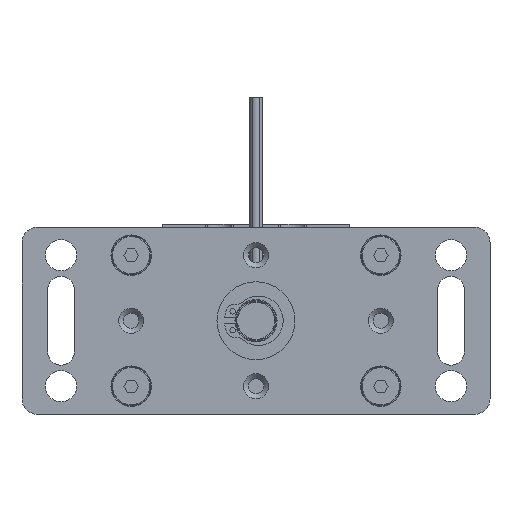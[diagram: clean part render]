
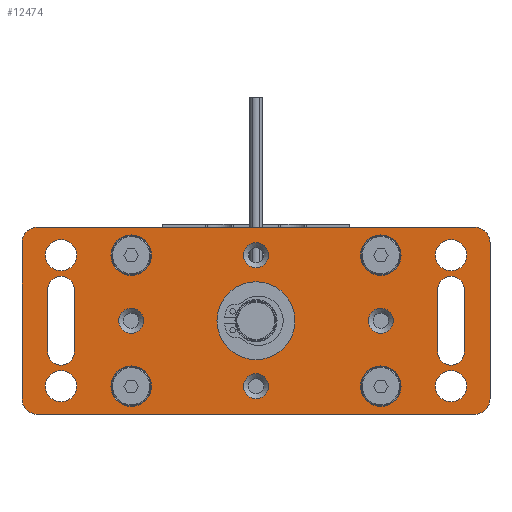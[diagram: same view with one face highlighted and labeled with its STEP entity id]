
A CAD part, front view. The second image highlights one B-rep face of the part: STEP entity #12474.
In plain terms, the highlighted planar face has unit normal (0, -1, 0).
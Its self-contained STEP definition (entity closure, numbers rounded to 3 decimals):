
#817=LINE('',#18185,#1482);
#818=LINE('',#18189,#1483);
#819=LINE('',#18196,#1484);
#820=LINE('',#18201,#1485);
#821=LINE('',#18205,#1486);
#822=LINE('',#18209,#1487);
#823=LINE('',#18232,#1488);
#824=LINE('',#18237,#1489);
#1482=VECTOR('',#14833,1000.);
#1483=VECTOR('',#14836,1000.);
#1484=VECTOR('',#14843,1000.);
#1485=VECTOR('',#14846,1000.);
#1486=VECTOR('',#14849,1000.);
#1487=VECTOR('',#14852,1000.);
#1488=VECTOR('',#14875,1000.);
#1489=VECTOR('',#14878,1000.);
#2627=ORIENTED_EDGE('',*,*,#5616,.F.);
#2628=ORIENTED_EDGE('',*,*,#5617,.F.);
#2629=ORIENTED_EDGE('',*,*,#5618,.F.);
#2630=ORIENTED_EDGE('',*,*,#5619,.F.);
#2631=ORIENTED_EDGE('',*,*,#5620,.F.);
#2632=ORIENTED_EDGE('',*,*,#5621,.T.);
#2633=ORIENTED_EDGE('',*,*,#5622,.F.);
#2634=ORIENTED_EDGE('',*,*,#5623,.T.);
#2635=ORIENTED_EDGE('',*,*,#5624,.T.);
#2636=ORIENTED_EDGE('',*,*,#5625,.T.);
#2637=ORIENTED_EDGE('',*,*,#5626,.T.);
#2638=ORIENTED_EDGE('',*,*,#5627,.T.);
#2639=ORIENTED_EDGE('',*,*,#5628,.T.);
#2640=ORIENTED_EDGE('',*,*,#5629,.T.);
#2641=ORIENTED_EDGE('',*,*,#5630,.T.);
#2642=ORIENTED_EDGE('',*,*,#5631,.F.);
#2643=ORIENTED_EDGE('',*,*,#5632,.T.);
#2644=ORIENTED_EDGE('',*,*,#5633,.F.);
#2645=ORIENTED_EDGE('',*,*,#5634,.F.);
#2646=ORIENTED_EDGE('',*,*,#5635,.F.);
#2647=ORIENTED_EDGE('',*,*,#5636,.F.);
#2648=ORIENTED_EDGE('',*,*,#5637,.T.);
#2649=ORIENTED_EDGE('',*,*,#5638,.T.);
#2650=ORIENTED_EDGE('',*,*,#5639,.T.);
#2651=ORIENTED_EDGE('',*,*,#5640,.T.);
#2652=ORIENTED_EDGE('',*,*,#5641,.T.);
#2653=ORIENTED_EDGE('',*,*,#5642,.T.);
#2654=ORIENTED_EDGE('',*,*,#5643,.T.);
#2655=ORIENTED_EDGE('',*,*,#5644,.T.);
#5616=EDGE_CURVE('',#7143,#7144,#8101,.T.);
#5617=EDGE_CURVE('',#7145,#7143,#817,.T.);
#5618=EDGE_CURVE('',#7146,#7145,#8102,.T.);
#5619=EDGE_CURVE('',#7144,#7146,#818,.T.);
#5620=EDGE_CURVE('',#7147,#7147,#8103,.T.);
#5621=EDGE_CURVE('',#7148,#7148,#8104,.T.);
#5622=EDGE_CURVE('',#7149,#7149,#8105,.T.);
#5623=EDGE_CURVE('',#7150,#7151,#819,.T.);
#5624=EDGE_CURVE('',#7151,#7152,#8106,.T.);
#5625=EDGE_CURVE('',#7152,#7153,#820,.T.);
#5626=EDGE_CURVE('',#7153,#7154,#8107,.T.);
#5627=EDGE_CURVE('',#7154,#7155,#821,.T.);
#5628=EDGE_CURVE('',#7155,#7156,#8108,.T.);
#5629=EDGE_CURVE('',#7156,#7157,#822,.T.);
#5630=EDGE_CURVE('',#7157,#7150,#8109,.T.);
#5631=EDGE_CURVE('',#7158,#7158,#8110,.T.);
#5632=EDGE_CURVE('',#7159,#7159,#8111,.T.);
#5633=EDGE_CURVE('',#7160,#7160,#8112,.T.);
#5634=EDGE_CURVE('',#7161,#7161,#8113,.T.);
#5635=EDGE_CURVE('',#7162,#7162,#8114,.T.);
#5636=EDGE_CURVE('',#7163,#7163,#8115,.T.);
#5637=EDGE_CURVE('',#7164,#7164,#8116,.F.);
#5638=EDGE_CURVE('',#7165,#7165,#8117,.F.);
#5639=EDGE_CURVE('',#7166,#7166,#8118,.F.);
#5640=EDGE_CURVE('',#7167,#7167,#8119,.F.);
#5641=EDGE_CURVE('',#7168,#7169,#823,.T.);
#5642=EDGE_CURVE('',#7169,#7170,#8120,.T.);
#5643=EDGE_CURVE('',#7170,#7171,#824,.T.);
#5644=EDGE_CURVE('',#7171,#7168,#8121,.T.);
#7143=VERTEX_POINT('',#18183);
#7144=VERTEX_POINT('',#18184);
#7145=VERTEX_POINT('',#18186);
#7146=VERTEX_POINT('',#18188);
#7147=VERTEX_POINT('',#18191);
#7148=VERTEX_POINT('',#18193);
#7149=VERTEX_POINT('',#18195);
#7150=VERTEX_POINT('',#18197);
#7151=VERTEX_POINT('',#18198);
#7152=VERTEX_POINT('',#18200);
#7153=VERTEX_POINT('',#18202);
#7154=VERTEX_POINT('',#18204);
#7155=VERTEX_POINT('',#18206);
#7156=VERTEX_POINT('',#18208);
#7157=VERTEX_POINT('',#18210);
#7158=VERTEX_POINT('',#18213);
#7159=VERTEX_POINT('',#18215);
#7160=VERTEX_POINT('',#18217);
#7161=VERTEX_POINT('',#18219);
#7162=VERTEX_POINT('',#18221);
#7163=VERTEX_POINT('',#18223);
#7164=VERTEX_POINT('',#18225);
#7165=VERTEX_POINT('',#18227);
#7166=VERTEX_POINT('',#18229);
#7167=VERTEX_POINT('',#18231);
#7168=VERTEX_POINT('',#18233);
#7169=VERTEX_POINT('',#18234);
#7170=VERTEX_POINT('',#18236);
#7171=VERTEX_POINT('',#18238);
#8101=CIRCLE('',#13342,4.25);
#8102=CIRCLE('',#13343,4.25);
#8103=CIRCLE('',#13344,12.5);
#8104=CIRCLE('',#13345,5.);
#8105=CIRCLE('',#13346,5.);
#8106=CIRCLE('',#13347,5.);
#8107=CIRCLE('',#13348,5.);
#8108=CIRCLE('',#13349,5.);
#8109=CIRCLE('',#13350,5.);
#8110=CIRCLE('',#13351,5.);
#8111=CIRCLE('',#13352,5.);
#8112=CIRCLE('',#13353,6.5);
#8113=CIRCLE('',#13354,6.5);
#8114=CIRCLE('',#13355,6.5);
#8115=CIRCLE('',#13356,6.5);
#8116=CIRCLE('',#13357,3.999);
#8117=CIRCLE('',#13358,3.999);
#8118=CIRCLE('',#13359,3.999);
#8119=CIRCLE('',#13360,3.999);
#8120=CIRCLE('',#13361,4.25);
#8121=CIRCLE('',#13362,4.25);
#8692=EDGE_LOOP('',(#2627,#2628,#2629,#2630));
#8693=EDGE_LOOP('',(#2631));
#8694=EDGE_LOOP('',(#2632));
#8695=EDGE_LOOP('',(#2633));
#8696=EDGE_LOOP('',(#2634,#2635,#2636,#2637,#2638,#2639,#2640,#2641));
#8697=EDGE_LOOP('',(#2642));
#8698=EDGE_LOOP('',(#2643));
#8699=EDGE_LOOP('',(#2644));
#8700=EDGE_LOOP('',(#2645));
#8701=EDGE_LOOP('',(#2646));
#8702=EDGE_LOOP('',(#2647));
#8703=EDGE_LOOP('',(#2648));
#8704=EDGE_LOOP('',(#2649));
#8705=EDGE_LOOP('',(#2650));
#8706=EDGE_LOOP('',(#2651));
#8707=EDGE_LOOP('',(#2652,#2653,#2654,#2655));
#9636=FACE_BOUND('',#8692,.T.);
#9637=FACE_BOUND('',#8693,.T.);
#9638=FACE_BOUND('',#8694,.T.);
#9639=FACE_BOUND('',#8695,.T.);
#9640=FACE_BOUND('',#8696,.T.);
#9641=FACE_BOUND('',#8697,.T.);
#9642=FACE_BOUND('',#8698,.T.);
#9643=FACE_BOUND('',#8699,.T.);
#9644=FACE_BOUND('',#8700,.T.);
#9645=FACE_BOUND('',#8701,.T.);
#9646=FACE_BOUND('',#8702,.T.);
#9647=FACE_BOUND('',#8703,.T.);
#9648=FACE_BOUND('',#8704,.T.);
#9649=FACE_BOUND('',#8705,.T.);
#9650=FACE_BOUND('',#8706,.T.);
#9651=FACE_BOUND('',#8707,.T.);
#10479=PLANE('',#13341);
#12474=ADVANCED_FACE('',(#9636,#9637,#9638,#9639,#9640,#9641,#9642,#9643,
#9644,#9645,#9646,#9647,#9648,#9649,#9650,#9651),#10479,.T.);
#13341=AXIS2_PLACEMENT_3D('',#18181,#14829,#14830);
#13342=AXIS2_PLACEMENT_3D('',#18182,#14831,#14832);
#13343=AXIS2_PLACEMENT_3D('',#18187,#14834,#14835);
#13344=AXIS2_PLACEMENT_3D('',#18190,#14837,#14838);
#13345=AXIS2_PLACEMENT_3D('',#18192,#14839,#14840);
#13346=AXIS2_PLACEMENT_3D('',#18194,#14841,#14842);
#13347=AXIS2_PLACEMENT_3D('',#18199,#14844,#14845);
#13348=AXIS2_PLACEMENT_3D('',#18203,#14847,#14848);
#13349=AXIS2_PLACEMENT_3D('',#18207,#14850,#14851);
#13350=AXIS2_PLACEMENT_3D('',#18211,#14853,#14854);
#13351=AXIS2_PLACEMENT_3D('',#18212,#14855,#14856);
#13352=AXIS2_PLACEMENT_3D('',#18214,#14857,#14858);
#13353=AXIS2_PLACEMENT_3D('',#18216,#14859,#14860);
#13354=AXIS2_PLACEMENT_3D('',#18218,#14861,#14862);
#13355=AXIS2_PLACEMENT_3D('',#18220,#14863,#14864);
#13356=AXIS2_PLACEMENT_3D('',#18222,#14865,#14866);
#13357=AXIS2_PLACEMENT_3D('',#18224,#14867,#14868);
#13358=AXIS2_PLACEMENT_3D('',#18226,#14869,#14870);
#13359=AXIS2_PLACEMENT_3D('',#18228,#14871,#14872);
#13360=AXIS2_PLACEMENT_3D('',#18230,#14873,#14874);
#13361=AXIS2_PLACEMENT_3D('',#18235,#14876,#14877);
#13362=AXIS2_PLACEMENT_3D('',#18239,#14879,#14880);
#14829=DIRECTION('',(0.,-1.,0.));
#14830=DIRECTION('',(0.,0.,-1.));
#14831=DIRECTION('',(0.,-1.,0.));
#14832=DIRECTION('',(1.,0.,0.));
#14833=DIRECTION('',(0.,0.,1.));
#14834=DIRECTION('',(0.,-1.,0.));
#14835=DIRECTION('',(-1.,0.,0.));
#14836=DIRECTION('',(0.,0.,-1.));
#14837=DIRECTION('',(0.,-1.,0.));
#14838=DIRECTION('',(0.,0.,-1.));
#14839=DIRECTION('',(0.,1.,0.));
#14840=DIRECTION('',(1.,0.,0.));
#14841=DIRECTION('',(0.,-1.,0.));
#14842=DIRECTION('',(1.,0.,0.));
#14843=DIRECTION('',(0.,0.,1.));
#14844=DIRECTION('',(0.,-1.,0.));
#14845=DIRECTION('',(0.,0.,-1.));
#14846=DIRECTION('',(-1.,0.,0.));
#14847=DIRECTION('',(0.,-1.,0.));
#14848=DIRECTION('',(0.,0.,-1.));
#14849=DIRECTION('',(0.,0.,-1.));
#14850=DIRECTION('',(0.,-1.,0.));
#14851=DIRECTION('',(0.,0.,-1.));
#14852=DIRECTION('',(1.,0.,0.));
#14853=DIRECTION('',(0.,-1.,0.));
#14854=DIRECTION('',(0.,0.,-1.));
#14855=DIRECTION('',(0.,-1.,0.));
#14856=DIRECTION('',(1.,0.,0.));
#14857=DIRECTION('',(0.,1.,0.));
#14858=DIRECTION('',(1.,0.,0.));
#14859=DIRECTION('',(0.,-1.,0.));
#14860=DIRECTION('',(1.,0.,0.));
#14861=DIRECTION('',(0.,-1.,0.));
#14862=DIRECTION('',(0.,0.,-1.));
#14863=DIRECTION('',(0.,-1.,0.));
#14864=DIRECTION('',(0.,0.,-1.));
#14865=DIRECTION('',(0.,-1.,0.));
#14866=DIRECTION('',(0.,0.,-1.));
#14867=DIRECTION('',(0.,-1.,0.));
#14868=DIRECTION('',(0.,0.,-1.));
#14869=DIRECTION('',(0.,-1.,0.));
#14870=DIRECTION('',(0.,0.,-1.));
#14871=DIRECTION('',(0.,-1.,0.));
#14872=DIRECTION('',(0.,0.,-1.));
#14873=DIRECTION('',(0.,-1.,0.));
#14874=DIRECTION('',(0.,0.,-1.));
#14875=DIRECTION('',(0.,0.,1.));
#14876=DIRECTION('',(0.,1.,0.));
#14877=DIRECTION('',(-1.,0.,0.));
#14878=DIRECTION('',(0.,0.,-1.));
#14879=DIRECTION('',(0.,1.,0.));
#14880=DIRECTION('',(1.,0.,0.));
#18181=CARTESIAN_POINT('',(-75.,0.,-30.));
#18182=CARTESIAN_POINT('',(-62.5,0.,10.));
#18183=CARTESIAN_POINT('',(-58.25,0.,10.));
#18184=CARTESIAN_POINT('',(-66.75,0.,10.));
#18185=CARTESIAN_POINT('',(-58.25,0.,10.));
#18186=CARTESIAN_POINT('',(-58.25,0.,-10.));
#18187=CARTESIAN_POINT('',(-62.5,0.,-10.));
#18188=CARTESIAN_POINT('',(-66.75,0.,-10.));
#18189=CARTESIAN_POINT('',(-66.75,0.,10.));
#18190=CARTESIAN_POINT('',(0.,0.,0.));
#18191=CARTESIAN_POINT('',(0.,0.,-12.5));
#18192=CARTESIAN_POINT('',(62.5,0.,-21.));
#18193=CARTESIAN_POINT('',(67.5,0.,-21.));
#18194=CARTESIAN_POINT('',(62.5,0.,21.));
#18195=CARTESIAN_POINT('',(67.5,0.,21.));
#18196=CARTESIAN_POINT('',(75.,0.,-30.));
#18197=CARTESIAN_POINT('',(75.,0.,-25.));
#18198=CARTESIAN_POINT('',(75.,0.,25.));
#18199=CARTESIAN_POINT('',(70.,0.,25.));
#18200=CARTESIAN_POINT('',(70.,0.,30.));
#18201=CARTESIAN_POINT('',(75.,0.,30.));
#18202=CARTESIAN_POINT('',(-70.,0.,30.));
#18203=CARTESIAN_POINT('',(-70.,0.,25.));
#18204=CARTESIAN_POINT('',(-75.,0.,25.));
#18205=CARTESIAN_POINT('',(-75.,0.,30.));
#18206=CARTESIAN_POINT('',(-75.,0.,-25.));
#18207=CARTESIAN_POINT('',(-70.,0.,-25.));
#18208=CARTESIAN_POINT('',(-70.,0.,-30.));
#18209=CARTESIAN_POINT('',(-75.,0.,-30.));
#18210=CARTESIAN_POINT('',(70.,0.,-30.));
#18211=CARTESIAN_POINT('',(70.,0.,-25.));
#18212=CARTESIAN_POINT('',(-62.5,0.,-21.));
#18213=CARTESIAN_POINT('',(-57.5,0.,-21.));
#18214=CARTESIAN_POINT('',(-62.5,0.,21.));
#18215=CARTESIAN_POINT('',(-57.5,0.,21.));
#18216=CARTESIAN_POINT('',(40.,0.,21.));
#18217=CARTESIAN_POINT('',(46.5,0.,21.));
#18218=CARTESIAN_POINT('',(40.,0.,-21.));
#18219=CARTESIAN_POINT('',(40.,0.,-27.5));
#18220=CARTESIAN_POINT('',(-40.,0.,21.));
#18221=CARTESIAN_POINT('',(-40.,0.,14.5));
#18222=CARTESIAN_POINT('',(-40.,0.,-21.));
#18223=CARTESIAN_POINT('',(-40.,0.,-27.5));
#18224=CARTESIAN_POINT('',(40.,0.,0.));
#18225=CARTESIAN_POINT('',(40.,0.,-3.999));
#18226=CARTESIAN_POINT('',(0.,0.,21.));
#18227=CARTESIAN_POINT('',(0.,0.,17.002));
#18228=CARTESIAN_POINT('',(-40.,0.,0.));
#18229=CARTESIAN_POINT('',(-40.,0.,-3.999));
#18230=CARTESIAN_POINT('',(0.,0.,-21.));
#18231=CARTESIAN_POINT('',(0.,0.,-24.999));
#18232=CARTESIAN_POINT('',(58.25,0.,10.));
#18233=CARTESIAN_POINT('',(58.25,0.,-10.));
#18234=CARTESIAN_POINT('',(58.25,0.,10.));
#18235=CARTESIAN_POINT('',(62.5,0.,10.));
#18236=CARTESIAN_POINT('',(66.75,0.,10.));
#18237=CARTESIAN_POINT('',(66.75,0.,10.));
#18238=CARTESIAN_POINT('',(66.75,0.,-10.));
#18239=CARTESIAN_POINT('',(62.5,0.,-10.));
